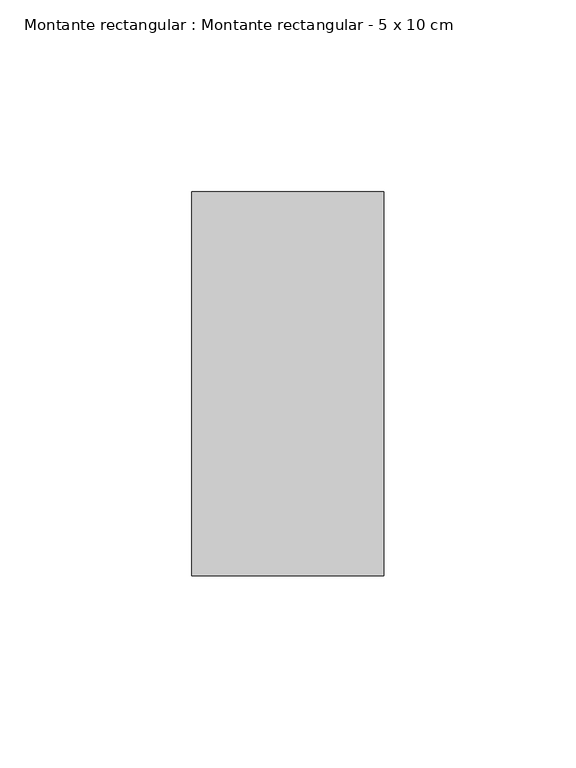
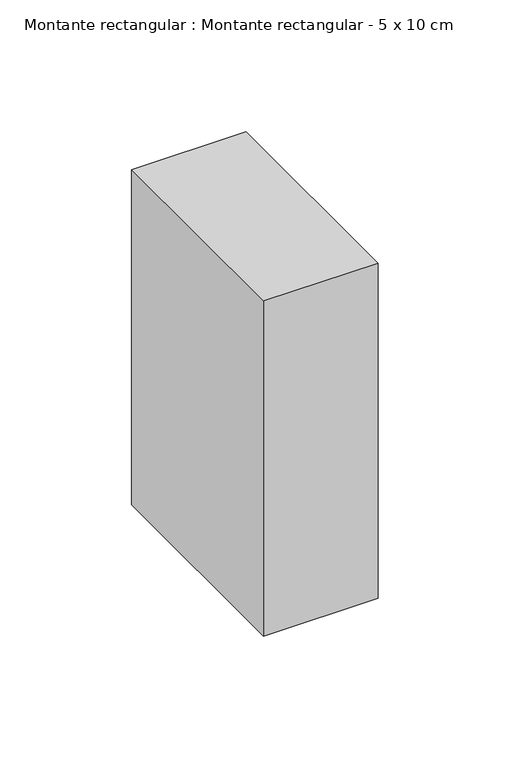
"""IFC4 building model written with IfcOpenShell, lengths in millimetres: member geometry, Montante rectangular : Montante rectangular - 5 x 10 cm."""

from ifc_helpers import new_model, si_unit, frame, origin, place, context, project, spatial, polyline, outline, extrude, source, transform, mapped, element, save


def montante_rectangular_montante_rectangular_5_x_10_cm_7717c9fd(model_context):
    return source(origin(), model_context, "Body", "SweptSolid", [
        extrude(outline(polyline([(25.0, 50.0), (25.0, -50.0), (-25.0, -50.0), (-25.0, 50.0), (25.0, 50.0)])), frame((0.0, 0.0, -155.0), z_axis=(0.0, 0.0, 1.0), x_axis=(1.0, 0.0, 0.0)), (0.0, 0.0, 1.0), 155.0),
    ])


if __name__ == "__main__":
    model = new_model("IFC4")
    model_context = context("Model", 3, world=origin())
    ifc_project = project(units=[si_unit("LENGTHUNIT", "METRE", prefix="MILLI")], contexts=[model_context])
    site = spatial("IfcSite", under=ifc_project)
    building = spatial("IfcBuilding", under=site)
    placement = place(None, origin())
    montante_rectangular_montante_rectangular_5_x_10_cm_shape = montante_rectangular_montante_rectangular_5_x_10_cm_7717c9fd(model_context)
    element("IfcMember", 1, ObjectType="Montante rectangular : Montante rectangular - 5 x 10 cm", at=placement, inside=building, context=model_context, shape_type="MappedRepresentation", body=[
        mapped(montante_rectangular_montante_rectangular_5_x_10_cm_shape, transform((0.0, 0.0, 0.0), x_axis=(1.0, 0.0, 0.0), y_axis=(0.0, 1.0, 0.0), z_axis=(0.0, 0.0, 1.0))),
    ])
    save(model, "model.ifc")
